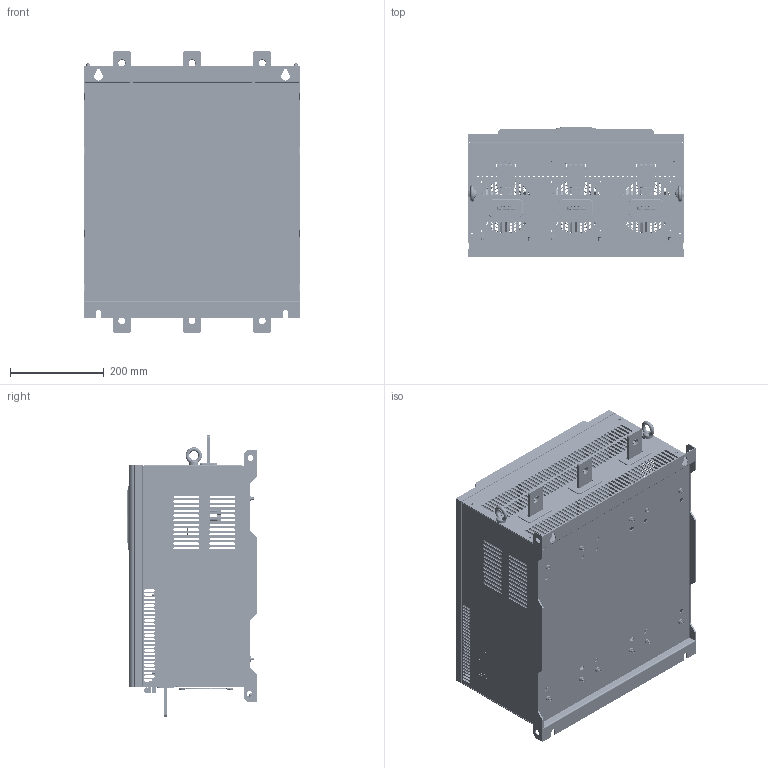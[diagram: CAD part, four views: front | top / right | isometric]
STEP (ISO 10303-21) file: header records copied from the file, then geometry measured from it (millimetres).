
FILE_DESCRIPTION((''),'2;1');
FILE_NAME('0-ZPT-315KW-ASM_ASM_ASM','2021-09-27T13:29:29',('ruanmm'),(''),'CREO PARAMETRIC BY PTC INC, 2020044','CREO PARAMETRIC BY PTC INC, 2020044','');
FILE_SCHEMA(('CONFIG_CONTROL_DESIGN','SHAPE_APPEARANCE_LAYERS_GROUPS'));
Products named in the file (133): MANIFOLD_SOLID_BREP_6405; MANIFOLD_SOLID_BREP_6692; MANIFOLD_SOLID_BREP_6979; MANIFOLD_SOLID_BREP_7266; MANIFOLD_SOLID_BREP_7553; NJR3-F4-WK-1_78_ASM; S-M5-2_2; S-M6-2_4; MANIFOLD_SOLID_BREP_18665; MANIFOLD_SOLID_BREP_19190; E-M8_1_ASM; NJR5-BACK-PLATE-1_ASM_12_ASM; NJR3-F4-CEB-Y-1_75; NJR3-F4-ZHIJIA-1-1_9; S-M4-2_3; NJR3-F4-ZHIJIA-1-1_ASM_16_ASM; NJR3-F4-CEB-Y-1_ASM_62_ASM; NJR3-F4-CEB-Z-1_71; NJR3-F4-CEB-Z-1_ASM_55_ASM; NJR3-F4-WK-1-BRAK-ASM_ASM_44_ASM; NJR3-F4-CEB-Q-1_61; NJR3-F4-CEB-H-1_50; SOOS-M3-8-ZI_1_5; SOOS-M3-8-ZIQI_2_5; NJR3-F4-TB-ASM_ASM_3_ASM_7_ASM; PCB-5-MENG_1_1_1; NJR-5-PCB-2_1_1_1; NJR5-QIAO-PCB-22_1_1_1; PTB750B-03-5-06-3----7-62-4P__1; PTB750B-03-12---5-08-12P__1_1_1; CPU-DIANYUANBAN-ASM_ASM_2-15049_ASM; CPU-DIANYUANBAN-ASM_ASM_2-22518_ASM; PLASTIC-HASAMI_5_1_1; DYB-1_ASM_1_ASM_1_ASM; NJR3-F4-TB-_ASM_1_ASM_19_ASM; BYQ-PLATE-315-ASM_ASM_1_ASM; NJR3-F4-TB-2-B-ASM_ASM_24_ASM; NJR3-F4-TB-_ASM-ALL_ASM_16_ASM; TOP-PLATE-NEW_32; NED-PL-A_9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
Assembly tree (215 placements, depth 9):
  0-ZPT-315KW-ASM_ASM_ASM
    0-ZPT-315KW-ASM_ASM_314_ASM
      NJR3-F4-DIZUO_ASM_115_ASM
        NJR3-F4-WK-1-BRAK-ASM_ASM_44_ASM
          NJR5-BACK-PLATE-1_ASM_12_ASM
            NJR3-F4-WK-1_78_ASM
              MANIFOLD_SOLID_BREP_6405
              MANIFOLD_SOLID_BREP_6692
              MANIFOLD_SOLID_BREP_6979
              MANIFOLD_SOLID_BREP_7266
              MANIFOLD_SOLID_BREP_7553
            S-M5-2_2  x2
            S-M6-2_4  x11
            E-M8_1_ASM
              MANIFOLD_SOLID_BREP_18665
              MANIFOLD_SOLID_BREP_19190
          NJR3-F4-CEB-Y-1_ASM_62_ASM
            NJR3-F4-CEB-Y-1_75
            S-M5-2_2  x7
            S-M6-2_4
            NJR3-F4-ZHIJIA-1-1_ASM_16_ASM  x5
              NJR3-F4-ZHIJIA-1-1_9
              S-M4-2_3
          NJR3-F4-CEB-Z-1_ASM_55_ASM
            NJR3-F4-CEB-Z-1_71
            S-M5-2_2  x7
            S-M6-2_4
            NJR3-F4-ZHIJIA-1-1_ASM_16_ASM  x5
              NJR3-F4-ZHIJIA-1-1_9
              S-M4-2_3
        NJR3-F4-CEB-Q-1_61
        NJR3-F4-CEB-H-1_50
        NJR3-F4-TB-_ASM-ALL_ASM_16_ASM
          NJR3-F4-TB-_ASM_1_ASM_19_ASM
            NJR3-F4-TB-ASM_ASM_3_ASM_7_ASM
              SOOS-M3-8-ZI_1_5  x4
              SOOS-M3-8-ZIQI_2_5  x4
            DYB-1_ASM_1_ASM_1_ASM
              CPU-DIANYUANBAN-ASM_ASM_2-22518_ASM
                CPU-DIANYUANBAN-ASM_ASM_2-15049_ASM
                  PCB-5-MENG_1_1_1
                  NJR-5-PCB-2_1_1_1
                  NJR5-QIAO-PCB-22_1_1_1
                  PTB750B-03-5-06-3----7-62-4P__1
                  PTB750B-03-12---5-08-12P__1_1_1
              PLASTIC-HASAMI_5_1_1
          NJR3-F4-TB-2-B-ASM_ASM_24_ASM
            BYQ-PLATE-315-ASM_ASM_1_ASM
              S-M4-2_3  x4
        NJR3-F2-GAI-1__ASM_23_ASM
          TOP-PLATE-NEW-ASM_ASM_18_ASM
            TOP-PLATE-NEW_32
            NED-PL-A_9  x2
          PVC-POST_1
          048119__3
          ASM0003_ASM_1_ASM
            ZHONGZHUTU2__ASM_1_ASM_2_1_ASM__ASM
              SHANGGAI-XIN__2_1_1_1
              XSP__1_1_1_1
              M3TONG__1_1_1_1  x4
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Bounding box: 464 x 277.7 x 601.37 mm (x, y, z)
Volume: 2661794.4 mm3; surface area: 2696864.9 mm2
Topology: 233 solids, 279 shells, 25210 faces, 68463 edges, 45215 vertices
Faces by surface type: plane 20451, cylinder 2732, extrusion 1175, cone 316, revolution 204, torus 198, bspline 88, sphere 46
Entity records: 440849 total; most frequent: CARTESIAN_POINT 81477, ORIENTED_EDGE 61298, DIRECTION 53631, EDGE_CURVE 30663, VECTOR 25751, LINE 24608, PRESENTATION_STYLE_ASSIGNMENT 23744, STYLED_ITEM 23744
